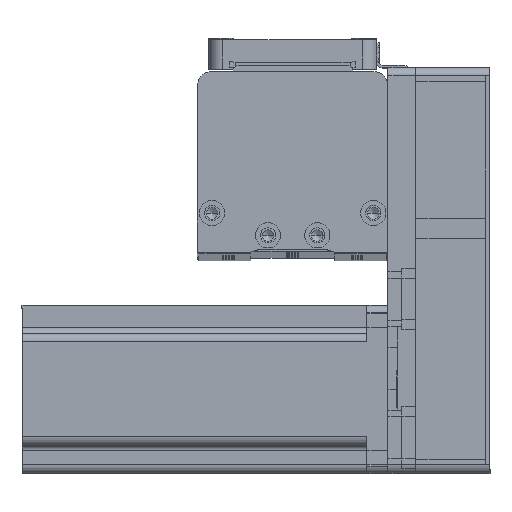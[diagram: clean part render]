
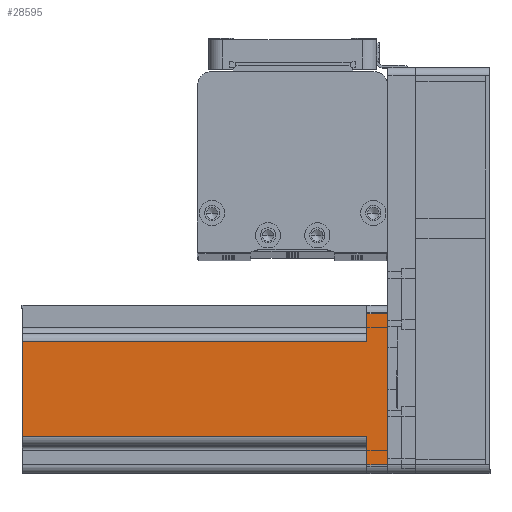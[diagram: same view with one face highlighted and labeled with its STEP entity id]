
A CAD part, top view. The second image highlights one B-rep face of the part: STEP entity #28595.
In plain terms, the highlighted planar face has unit normal (0, 0, 1) as drawn and (0, 1, 0) by its records, which use the part's own axes.
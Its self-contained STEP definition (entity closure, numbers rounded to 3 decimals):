
#1777 = EDGE_CURVE ( 'NONE', #49815, #15255, #26406, .T. ) ;
#2448 = VERTEX_POINT ( 'NONE', #32168 ) ;
#3174 = LINE ( 'NONE', #49940, #23342 ) ;
#3392 = FACE_OUTER_BOUND ( 'NONE', #11132, .T. ) ;
#5317 = DIRECTION ( 'NONE',  ( 0., 0., 1. ) ) ;
#5537 = LINE ( 'NONE', #38308, #36387 ) ;
#5704 = EDGE_CURVE ( 'NONE', #2448, #37597, #5537, .T. ) ;
#5840 = CARTESIAN_POINT ( 'NONE',  ( 30., 30., 130.7 ) ) ;
#5854 = DIRECTION ( 'NONE',  ( 0., 0., 1. ) ) ;
#6154 = VECTOR ( 'NONE', #7416, 1000. ) ;
#7299 = DIRECTION ( 'NONE',  ( -1., 0., 0. ) ) ;
#7416 = DIRECTION ( 'NONE',  ( -1., 0., 0. ) ) ;
#8060 = EDGE_CURVE ( 'NONE', #49815, #33770, #8448, .T. ) ;
#8448 = LINE ( 'NONE', #15414, #28577 ) ;
#9066 = CARTESIAN_POINT ( 'NONE',  ( -17., 30., 7.5 ) ) ;
#9884 = DIRECTION ( 'NONE',  ( 1., 0., 0. ) ) ;
#10276 = CARTESIAN_POINT ( 'NONE',  ( 17., 30., 7.5 ) ) ;
#10638 = CARTESIAN_POINT ( 'NONE',  ( 17., 30., 130.7 ) ) ;
#11132 = EDGE_LOOP ( 'NONE', ( #22835, #41225, #17863, #25570, #29416, #43268, #22477, #29211 ) ) ;
#11964 = VERTEX_POINT ( 'NONE', #9066 ) ;
#12731 = VECTOR ( 'NONE', #5317, 1000. ) ;
#13737 = CARTESIAN_POINT ( 'NONE',  ( 27., 30., 7.5 ) ) ;
#14942 = VERTEX_POINT ( 'NONE', #13737 ) ;
#15255 = VERTEX_POINT ( 'NONE', #10276 ) ;
#15372 = VECTOR ( 'NONE', #16651, 1000. ) ;
#15414 = CARTESIAN_POINT ( 'NONE',  ( 30., 30., 130.7 ) ) ;
#16651 = DIRECTION ( 'NONE',  ( 1., 0., 0. ) ) ;
#17271 = CARTESIAN_POINT ( 'NONE',  ( -17., 30., 130.7 ) ) ;
#17546 = EDGE_CURVE ( 'NONE', #14942, #15255, #36979, .T. ) ;
#17863 = ORIENTED_EDGE ( 'NONE', *, *, #8060, .F. ) ;
#19187 = EDGE_CURVE ( 'NONE', #14942, #2448, #42512, .T. ) ;
#21591 = EDGE_CURVE ( 'NONE', #39889, #11964, #27307, .T. ) ;
#22477 = ORIENTED_EDGE ( 'NONE', *, *, #5704, .T. ) ;
#22835 = ORIENTED_EDGE ( 'NONE', *, *, #21591, .T. ) ;
#23342 = VECTOR ( 'NONE', #5854, 1000. ) ;
#23416 = CARTESIAN_POINT ( 'NONE',  ( -27., 30., 0. ) ) ;
#23447 = LINE ( 'NONE', #17271, #12731 ) ;
#24023 = CARTESIAN_POINT ( 'NONE',  ( 17., 30., 130.7 ) ) ;
#25235 = DIRECTION ( 'NONE',  ( 0., 0., -1. ) ) ;
#25279 = AXIS2_PLACEMENT_3D ( 'NONE', #5840, #33983, #9884 ) ;
#25570 = ORIENTED_EDGE ( 'NONE', *, *, #1777, .T. ) ;
#26304 = CARTESIAN_POINT ( 'NONE',  ( -27., 30., 7.5 ) ) ;
#26406 = LINE ( 'NONE', #24023, #47755 ) ;
#27307 = LINE ( 'NONE', #32657, #15372 ) ;
#27629 = CARTESIAN_POINT ( 'NONE',  ( 20., 30., 7.5 ) ) ;
#28577 = VECTOR ( 'NONE', #7299, 1000. ) ;
#28595 = ADVANCED_FACE ( 'NONE', ( #3392 ), #41728, .F. ) ;
#29211 = ORIENTED_EDGE ( 'NONE', *, *, #40429, .T. ) ;
#29416 = ORIENTED_EDGE ( 'NONE', *, *, #17546, .F. ) ;
#32168 = CARTESIAN_POINT ( 'NONE',  ( 27., 30., 0. ) ) ;
#32657 = CARTESIAN_POINT ( 'NONE',  ( -20., 30., 7.5 ) ) ;
#33770 = VERTEX_POINT ( 'NONE', #37678 ) ;
#33983 = DIRECTION ( 'NONE',  ( 0., -1., 0. ) ) ;
#36387 = VECTOR ( 'NONE', #36692, 1000. ) ;
#36692 = DIRECTION ( 'NONE',  ( -1., 0., 0. ) ) ;
#36979 = LINE ( 'NONE', #27629, #6154 ) ;
#37011 = CARTESIAN_POINT ( 'NONE',  ( 27., 30., 130.7 ) ) ;
#37171 = EDGE_CURVE ( 'NONE', #11964, #33770, #23447, .T. ) ;
#37597 = VERTEX_POINT ( 'NONE', #23416 ) ;
#37678 = CARTESIAN_POINT ( 'NONE',  ( -17., 30., 130.7 ) ) ;
#38308 = CARTESIAN_POINT ( 'NONE',  ( 30., 30., 0. ) ) ;
#39813 = DIRECTION ( 'NONE',  ( 0., 0., -1. ) ) ;
#39889 = VERTEX_POINT ( 'NONE', #26304 ) ;
#40429 = EDGE_CURVE ( 'NONE', #37597, #39889, #3174, .T. ) ;
#41225 = ORIENTED_EDGE ( 'NONE', *, *, #37171, .T. ) ;
#41230 = VECTOR ( 'NONE', #25235, 1000. ) ;
#41728 = PLANE ( 'NONE',  #25279 ) ;
#42512 = LINE ( 'NONE', #37011, #41230 ) ;
#43268 = ORIENTED_EDGE ( 'NONE', *, *, #19187, .T. ) ;
#47755 = VECTOR ( 'NONE', #39813, 1000. ) ;
#49815 = VERTEX_POINT ( 'NONE', #10638 ) ;
#49940 = CARTESIAN_POINT ( 'NONE',  ( -27., 30., 130.7 ) ) ;
